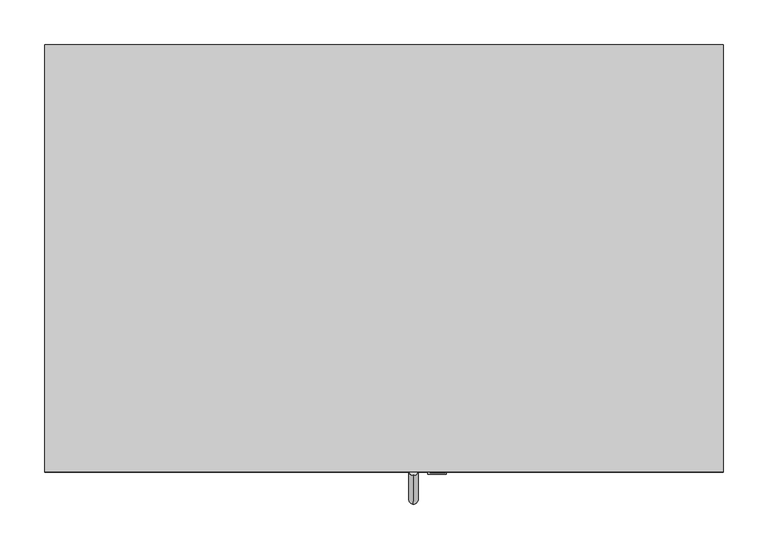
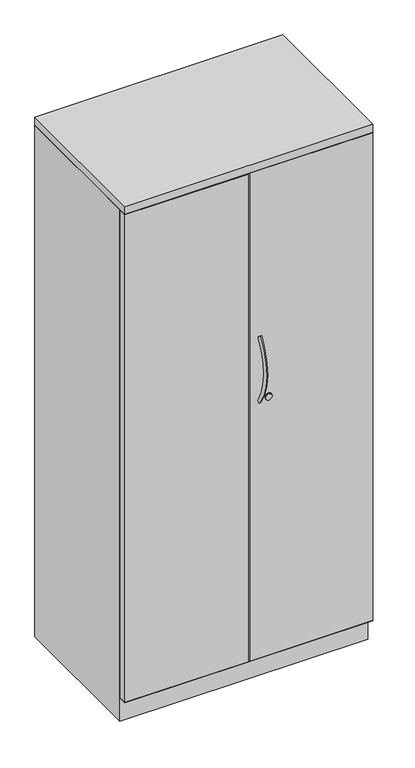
"""IFC4 building model written with IfcOpenShell, lengths in millimetres: furniture geometry, Steelcase - Universal Storage - Cabinet - Storage - 66H-84H - Proud Steel : 66H x 18D x 30W."""

from ifc_helpers import new_model, si_unit, point, frame, frame_2d, origin, place, context, project, spatial, polyline, circle_curve, ellipse_curve, trimmed, segment, composite_curve, outline, extrude, faceted_brep, source, transform, mapped, element, save
from ifc_brep_helpers import plane_surface, revolved_surface, advanced_brep


def furniture_b2f018d8(model_context):
    return source(origin(), model_context, "Body", "SolidModel", [
        extrude(outline(polyline([(762.0, 0.0), (762.0, -479.552), (0.0, -479.552), (0.0, 0.0), (762.0, 0.0)])), frame((0.0, 0.0, 1663.7), z_axis=(0.0, 0.0, 1.0), x_axis=(1.0, 0.0, 0.0)), (0.0, 0.0, 1.0), 25.4),
        extrude(outline(polyline([(0.0, -479.552), (0.0, -454.1528418), (378.46, -454.1528418), (378.46, -479.552), (0.0, -479.552)])), frame((0.0, 0.0, 77.724), z_axis=(0.0, 0.0, 1.0), x_axis=(1.0, 0.0, 0.0)), (0.0, 0.0, 1.0), 1584.452),
        extrude(outline(polyline([(762.0, -454.1528418), (762.0, -479.552), (383.54, -479.552), (383.54, -454.1528418), (762.0, -454.1528418)])), frame((0.0, 0.0, 77.724), z_axis=(0.0, 0.0, 1.0), x_axis=(1.0, 0.0, 0.0)), (0.0, 0.0, 1.0), 1584.452),
        extrude(outline(composite_curve([segment(trimmed(circle_curve(frame_2d((917.702, 440.5418131)), 10.16), [point((917.702, 450.7018131))], [point((917.702, 430.3818131))], False, "CARTESIAN"), True, "CONTINUOUS"), segment(trimmed(circle_curve(frame_2d((917.702, 440.5418131)), 10.16), [point((917.702, 430.3818131))], [point((917.702, 450.7018131))], False, "CARTESIAN"), True, "CONTINUOUS")], self_intersect=False)), frame((0.0, -481.965031, 0.0), z_axis=(0.0, 1.0, 0.0), x_axis=(0.0, 0.0, 1.0)), (0.0, 0.0, 1.0), 2.413031),
        advanced_brep(
        [(414.0783765, -474.9744318, 1119.7196018), (414.0783765, -483.5741633, 1125.3900503), (414.0783765, -472.5471581, 911.9931915), (414.0783765, -481.0120418, 906.1233437)],
        [
            (0, 1, circle_curve(frame((414.0783765, -479.2742976, 1122.5548261), z_axis=(0.0, 0.5504787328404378, 0.83484918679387), x_axis=(0.0, -0.83484918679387, 0.5504787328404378)), 5.1504701)),
            (1, 0, circle_curve(frame((414.0783765, -479.2742976, 1122.5548261), z_axis=(0.0, 0.5504787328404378, 0.83484918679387), x_axis=(0.0, -0.83484918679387, 0.5504787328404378)), 5.1504701)),
            (2, 3, circle_curve(frame((414.0783765, -476.7796, 909.0582676), z_axis=(0.0, 0.5698361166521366, -0.8217583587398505), x_axis=(0.0, -0.8217583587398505, -0.5698361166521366)), 5.1504701)),
            (3, 2, circle_curve(frame((414.0783765, -476.7796, 909.0582676), z_axis=(0.0, 0.5698361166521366, -0.8217583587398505), x_axis=(0.0, -0.8217583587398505, -0.5698361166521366)), 5.1504701)),
            (3, 1, circle_curve(frame((414.0783765, -320.178461, 1017.6509992), z_axis=(-1.0, 0.0, 0.0), x_axis=(0.0, -0.83484918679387, 0.5504787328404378)), 195.7188256)),
            (0, 2, circle_curve(frame((414.0783765, -320.178461, 1017.6509992), z_axis=(1.0, 0.0, 0.0), x_axis=(0.0, -0.83484918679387, 0.5504787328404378)), 185.4178854)),
        ],
        [
            plane_surface(frame((414.0783765, -479.2742976, 1122.5548261), z_axis=(0.0, 0.5504787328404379, 0.83484918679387), x_axis=(-1.0, 0.0, 0.0))),
            plane_surface(frame((414.0783765, -476.7796, 909.0582676), z_axis=(0.0, 0.5698361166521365, -0.8217583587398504), x_axis=(-1.0, 0.0, 0.0))),
            revolved_surface(trimmed(ellipse_curve(frame((414.0783765, -479.2742976, 1122.5548261), z_axis=(0.0, 0.5504787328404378, 0.83484918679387), x_axis=(0.0, -0.83484918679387, 0.5504787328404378)), 5.1504701, 5.1504701), [point((414.0783765, -474.9744318, 1119.7196018))], [point((414.0783765, -483.5741633, 1125.3900503))], True, "CARTESIAN"), (414.0783765, -320.178461, 1017.6509992), (1.0, 0.0, 0.0)),
            revolved_surface(trimmed(ellipse_curve(frame((414.0783765, -479.2742976, 1122.5548261), z_axis=(0.0, 0.5504787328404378, 0.83484918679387), x_axis=(0.0, -0.83484918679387, 0.5504787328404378)), 5.1504701, 5.1504701), [point((414.0783765, -483.5741633, 1125.3900503))], [point((414.0783765, -474.9744318, 1119.7196018))], True, "CARTESIAN"), (414.0783765, -320.178461, 1017.6509992), (1.0, 0.0, 0.0)),
        ],
        [
            (0, [[1, 2]]),
            (1, [[3, 4]]),
            (2, [[5, -1, 6, -4]]),
            (3, [[-6, -2, -5, -3]]),
        ],
    ),
        extrude(outline(composite_curve([segment(trimmed(circle_curve(frame_2d((919.3669832, 440.8109835)), 9.7167829), [point((919.3669832, 450.5277664))], [point((919.3669832, 431.0942006))], False, "CARTESIAN"), True, "CONTINUOUS"), segment(trimmed(circle_curve(frame_2d((919.3669832, 440.8109835)), 9.7167829), [point((919.3669832, 431.0942006))], [point((919.3669832, 450.5277664))], False, "CARTESIAN"), True, "CONTINUOUS")], self_intersect=False)), frame((0.0, -480.2215275, 0.0), z_axis=(0.0, 1.0, 0.0), x_axis=(0.0, 0.0, 1.0)), (0.0, 0.0, 1.0), 0.6695275),
        faceted_brep([(762.0, 0.0, 0.0), (762.0, -452.6288432, 0.0), (0.0, -452.6288432, 0.0), (0.0, 0.0, 0.0), (0.0, 0.0, 1662.176), (762.0, 0.0, 1662.176), (0.0, -452.6288432, 76.2), (0.0, -479.552, 76.2), (0.0, -479.552, 77.724), (0.0, -452.6288432, 77.724), (0.0, -452.6288432, 1662.176), (762.0, -452.6288432, 76.2), (762.0, -452.6288432, 1662.176), (762.0, -452.6288432, 77.724), (762.0, -479.4258418, 77.724), (762.0, -479.552, 76.2), (736.6000242, -25.4000008, 1662.176), (736.6000242, -452.6288432, 1662.176), (25.3999758, -452.6288432, 1662.176), (25.3999758, -25.4000008, 1662.176), (736.6000242, -25.4000008, 77.724), (736.6000242, -452.6288432, 77.724), (25.3999758, -452.6288432, 77.724), (25.3999758, -25.4000008, 77.724), (4.6981334, -454.1528418, 77.724), (736.6000242, -454.1528418, 77.724)], [[[0, 1, 2, 3]], [[0, 3, 4, 5]], [[4, 3, 2, 6, 7, 8, 9, 10]], [[2, 1, 11, 6]], [[1, 0, 5, 12, 13, 14, 15, 11]], [[16, 17, 12, 5, 4, 10, 18, 19]], [[17, 16, 20, 21]], [[12, 17, 21, 13]], [[18, 10, 9, 22]], [[19, 18, 22, 23]], [[16, 19, 23, 20]], [[8, 24, 25, 14, 13, 21, 20, 23, 22, 9]], [[15, 7, 6, 11]], [[24, 8, 7]], [[25, 24, 7, 15]], [[14, 25, 15]]]),
    ])


if __name__ == "__main__":
    model = new_model("IFC4")
    model_context = context("Model", 3, world=origin())
    ifc_project = project(units=[si_unit("LENGTHUNIT", "METRE", prefix="MILLI")], contexts=[model_context])
    site = spatial("IfcSite", under=ifc_project)
    building = spatial("IfcBuilding", under=site)
    placement = place(None, origin())
    furniture_shape = furniture_b2f018d8(model_context)
    element("IfcFurniture", 1, ObjectType="Steelcase - Universal Storage - Cabinet - Storage - 66H-84H - Proud Steel : 66H x 18D x 30W", at=placement, inside=building, context=model_context, shape_type="MappedRepresentation", body=[
        mapped(furniture_shape, transform((0.0, 0.0, 0.0), x_axis=(1.0, 0.0, 0.0), y_axis=(0.0, 1.0, 0.0), z_axis=(0.0, 0.0, 1.0))),
    ])
    save(model, "model.ifc")
